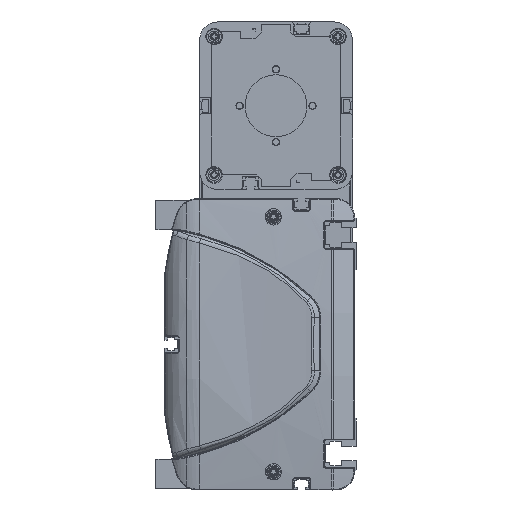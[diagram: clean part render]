
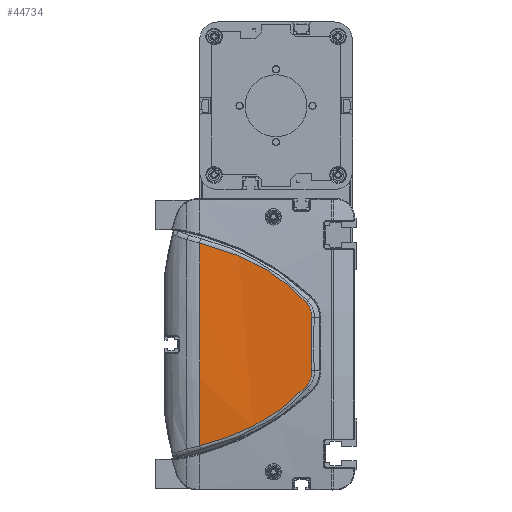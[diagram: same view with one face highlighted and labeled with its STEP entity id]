
A CAD part, left-side view. The second image highlights one B-rep face of the part: STEP entity #44734.
In plain terms, the highlighted cylindrical face has radius 600 mm (diameter 1200 mm), a partial arc.
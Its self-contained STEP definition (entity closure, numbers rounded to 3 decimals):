
#15610=CARTESIAN_POINT('',(-12.406,86.,
55.736));
#15611=CARTESIAN_POINT('',(-12.529,80.495,
54.41));
#15612=CARTESIAN_POINT('',(-12.828,69.636,
51.114));
#15613=CARTESIAN_POINT('',(-13.389,54.079,
44.179));
#15614=CARTESIAN_POINT('',(-14.01,39.709,
34.979));
#15615=CARTESIAN_POINT('',(-14.395,31.353,
27.243));
#15616=CARTESIAN_POINT('',(-14.555,27.451,
23.113));
#15618=CARTESIAN_POINT('',(-14.555,27.451,
23.113));
#15619=CARTESIAN_POINT('',(-14.598,26.394,
21.994));
#15620=CARTESIAN_POINT('',(-14.695,24.746,
19.315));
#15621=CARTESIAN_POINT('',(-14.783,24.276,
16.208));
#15622=CARTESIAN_POINT('',(-14.821,24.351,
14.67));
#15624=CARTESIAN_POINT('',(-14.821,24.351,
14.67));
#15625=CARTESIAN_POINT('',(-14.9,24.51,
11.413));
#15626=CARTESIAN_POINT('',(-15.007,24.721,
4.895));
#15627=CARTESIAN_POINT('',(-15.007,24.721,
-4.895));
#15628=CARTESIAN_POINT('',(-14.9,24.51,
-11.413));
#15629=CARTESIAN_POINT('',(-14.821,24.351,
-14.67));
#15631=CARTESIAN_POINT('',(-14.821,24.351,
-14.67));
#15632=CARTESIAN_POINT('',(-14.783,24.276,
-16.208));
#15633=CARTESIAN_POINT('',(-14.695,24.746,
-19.315));
#15634=CARTESIAN_POINT('',(-14.598,26.394,
-21.995));
#15635=CARTESIAN_POINT('',(-14.555,27.451,
-23.113));
#15637=CARTESIAN_POINT('',(-14.555,27.451,
-23.113));
#15638=CARTESIAN_POINT('',(-14.395,31.353,
-27.243));
#15639=CARTESIAN_POINT('',(-14.01,39.709,
-34.979));
#15640=CARTESIAN_POINT('',(-13.389,54.079,
-44.179));
#15641=CARTESIAN_POINT('',(-12.828,69.636,
-51.114));
#15642=CARTESIAN_POINT('',(-12.529,80.495,
-54.41));
#15643=CARTESIAN_POINT('',(-12.406,86.,
-55.736));
#15645=CARTESIAN_POINT('',(585.,86.,0.));
#15646=DIRECTION('',(0.,1.,0.));
#15647=DIRECTION('',(-0.996,0.,-0.093));
#15648=AXIS2_PLACEMENT_3D('',#15645,#15646,#15647);
#15661=CARTESIAN_POINT('',(-12.406,86.,
55.736));
#20720=VERTEX_POINT('',#15661);
#20721=CARTESIAN_POINT('',(-12.406,86.,
-55.736));
#20722=VERTEX_POINT('',#20721);
#20772=VERTEX_POINT('',#15616);
#20773=VERTEX_POINT('',#15622);
#20774=VERTEX_POINT('',#15629);
#20775=VERTEX_POINT('',#15635);
#44716=CARTESIAN_POINT('',(585.,87.45,0.));
#44717=DIRECTION('',(0.,-1.,0.));
#44718=DIRECTION('',(0.,0.,-1.));
#44719=AXIS2_PLACEMENT_3D('',#44716,#44717,#44718);
#44720=CYLINDRICAL_SURFACE('',#44719,600.);
#44722=ORIENTED_EDGE('',*,*,#44721,.T.);
#44724=ORIENTED_EDGE('',*,*,#44723,.T.);
#44725=ORIENTED_EDGE('',*,*,#44706,.T.);
#44727=ORIENTED_EDGE('',*,*,#44726,.T.);
#44729=ORIENTED_EDGE('',*,*,#44728,.T.);
#44731=ORIENTED_EDGE('',*,*,#44730,.T.);
#44732=EDGE_LOOP('',(#44722,#44724,#44725,#44727,#44729,#44731));
#44733=FACE_OUTER_BOUND('',#44732,.F.);
#44734=ADVANCED_FACE('',(#44733),#44720,.T.);
#15617=B_SPLINE_CURVE_WITH_KNOTS('',3,(#15610,#15611,#15612,#15613,#15614,
#15615,#15616),.UNSPECIFIED.,.F.,.F.,(4,1,1,1,4),(0.,0.25,0.5,0.75,
1.),.UNSPECIFIED.);
#15623=B_SPLINE_CURVE_WITH_KNOTS('',3,(#15618,#15619,#15620,#15621,#15622),
.UNSPECIFIED.,.F.,.F.,(4,1,4),(0.,0.5,1.),.UNSPECIFIED.);
#15630=B_SPLINE_CURVE_WITH_KNOTS('',3,(#15624,#15625,#15626,#15627,#15628,
#15629),.UNSPECIFIED.,.F.,.F.,(4,1,1,4),(0.,0.333,
0.667,1.),.UNSPECIFIED.);
#15636=B_SPLINE_CURVE_WITH_KNOTS('',3,(#15631,#15632,#15633,#15634,#15635),
.UNSPECIFIED.,.F.,.F.,(4,1,4),(0.,0.5,1.),.UNSPECIFIED.);
#15644=B_SPLINE_CURVE_WITH_KNOTS('',3,(#15637,#15638,#15639,#15640,#15641,
#15642,#15643),.UNSPECIFIED.,.F.,.F.,(4,1,1,1,4),(0.,0.25,0.5,0.75,
1.),.UNSPECIFIED.);
#15649=CIRCLE('',#15648,600.);
#44706=EDGE_CURVE('',#20773,#20774,#15630,.T.);
#44721=EDGE_CURVE('',#20720,#20772,#15617,.T.);
#44723=EDGE_CURVE('',#20772,#20773,#15623,.T.);
#44726=EDGE_CURVE('',#20774,#20775,#15636,.T.);
#44728=EDGE_CURVE('',#20775,#20722,#15644,.T.);
#44730=EDGE_CURVE('',#20722,#20720,#15649,.T.);
